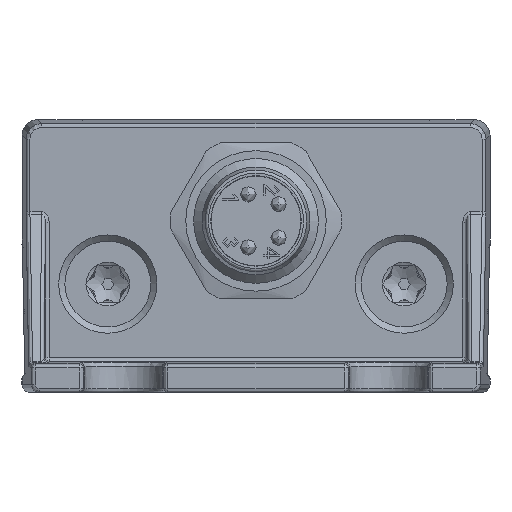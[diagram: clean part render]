
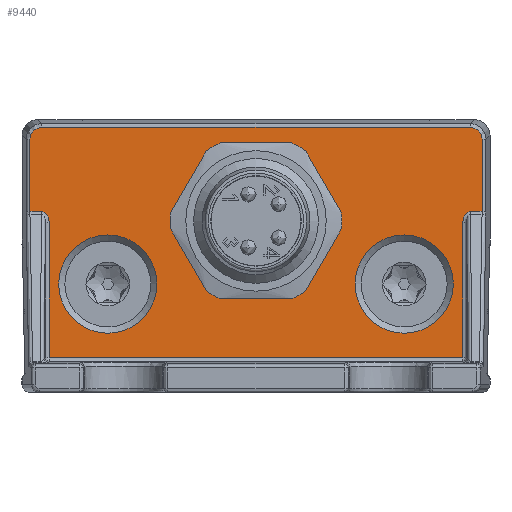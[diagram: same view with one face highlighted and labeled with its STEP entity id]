
A CAD part, front view. The second image highlights one B-rep face of the part: STEP entity #9440.
In plain terms, the highlighted planar face has unit normal (0, -1, 0).
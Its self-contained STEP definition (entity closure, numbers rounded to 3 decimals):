
#551=FACE_BOUND('',#1306,.T.);
#552=FACE_BOUND('',#1307,.T.);
#553=FACE_BOUND('',#1308,.T.);
#574=ELLIPSE('',#10066,0.707,0.5);
#575=ELLIPSE('',#10067,0.707,0.5);
#576=ELLIPSE('',#10068,0.75,0.75);
#577=ELLIPSE('',#10069,0.75,0.75);
#752=FACE_OUTER_BOUND('',#1305,.T.);
#1305=EDGE_LOOP('',(#6007,#6008,#6009,#6010,#6011,#6012,#6013,#6014,#6015,
#6016,#6017,#6018));
#1306=EDGE_LOOP('',(#6019));
#1307=EDGE_LOOP('',(#6020));
#1308=EDGE_LOOP('',(#6021));
#1893=CIRCLE('',#10051,3.15);
#1896=CIRCLE('',#10055,3.15);
#1900=CIRCLE('',#10070,4.5);
#2311=LINE('',#13912,#2991);
#2312=LINE('',#13914,#2992);
#2313=LINE('',#13916,#2993);
#2314=LINE('',#13920,#2994);
#2315=LINE('',#13922,#2995);
#2316=LINE('',#13926,#2996);
#2317=LINE('',#13930,#2997);
#2318=LINE('',#13931,#2998);
#2991=VECTOR('',#11216,1.);
#2992=VECTOR('',#11217,1.);
#2993=VECTOR('',#11218,1.);
#2994=VECTOR('',#11221,1.);
#2995=VECTOR('',#11222,1.);
#2996=VECTOR('',#11225,1.);
#2997=VECTOR('',#11228,1.);
#2998=VECTOR('',#11229,1.);
#3668=VERTEX_POINT('',#13823);
#3671=VERTEX_POINT('',#13831);
#3705=VERTEX_POINT('',#13908);
#3706=VERTEX_POINT('',#13909);
#3707=VERTEX_POINT('',#13911);
#3708=VERTEX_POINT('',#13913);
#3709=VERTEX_POINT('',#13915);
#3710=VERTEX_POINT('',#13917);
#3711=VERTEX_POINT('',#13919);
#3712=VERTEX_POINT('',#13921);
#3713=VERTEX_POINT('',#13923);
#3714=VERTEX_POINT('',#13925);
#3715=VERTEX_POINT('',#13927);
#3716=VERTEX_POINT('',#13929);
#3717=VERTEX_POINT('',#13932);
#4548=EDGE_CURVE('',#3668,#3668,#1893,.T.);
#4552=EDGE_CURVE('',#3671,#3671,#1896,.T.);
#4589=EDGE_CURVE('',#3705,#3706,#574,.T.);
#4590=EDGE_CURVE('',#3707,#3705,#2311,.T.);
#4591=EDGE_CURVE('',#3707,#3708,#2312,.T.);
#4592=EDGE_CURVE('',#3709,#3708,#2313,.T.);
#4593=EDGE_CURVE('',#3710,#3709,#575,.T.);
#4594=EDGE_CURVE('',#3710,#3711,#2314,.T.);
#4595=EDGE_CURVE('',#3711,#3712,#2315,.T.);
#4596=EDGE_CURVE('',#3712,#3713,#576,.T.);
#4597=EDGE_CURVE('',#3713,#3714,#2316,.T.);
#4598=EDGE_CURVE('',#3714,#3715,#577,.T.);
#4599=EDGE_CURVE('',#3715,#3716,#2317,.T.);
#4600=EDGE_CURVE('',#3716,#3706,#2318,.T.);
#4601=EDGE_CURVE('',#3717,#3717,#1900,.T.);
#6007=ORIENTED_EDGE('',*,*,#4589,.F.);
#6008=ORIENTED_EDGE('',*,*,#4590,.F.);
#6009=ORIENTED_EDGE('',*,*,#4591,.T.);
#6010=ORIENTED_EDGE('',*,*,#4592,.F.);
#6011=ORIENTED_EDGE('',*,*,#4593,.F.);
#6012=ORIENTED_EDGE('',*,*,#4594,.T.);
#6013=ORIENTED_EDGE('',*,*,#4595,.T.);
#6014=ORIENTED_EDGE('',*,*,#4596,.T.);
#6015=ORIENTED_EDGE('',*,*,#4597,.T.);
#6016=ORIENTED_EDGE('',*,*,#4598,.T.);
#6017=ORIENTED_EDGE('',*,*,#4599,.T.);
#6018=ORIENTED_EDGE('',*,*,#4600,.T.);
#6019=ORIENTED_EDGE('',*,*,#4601,.T.);
#6020=ORIENTED_EDGE('',*,*,#4548,.T.);
#6021=ORIENTED_EDGE('',*,*,#4552,.T.);
#8676=PLANE('',#10065);
#9440=ADVANCED_FACE('',(#752,#551,#552,#553),#8676,.T.);
#10051=AXIS2_PLACEMENT_3D('',#13825,#11152,#11153);
#10055=AXIS2_PLACEMENT_3D('',#13833,#11161,#11162);
#10065=AXIS2_PLACEMENT_3D('',#13907,#11212,#11213);
#10066=AXIS2_PLACEMENT_3D('',#13910,#11214,#11215);
#10067=AXIS2_PLACEMENT_3D('',#13918,#11219,#11220);
#10068=AXIS2_PLACEMENT_3D('',#13924,#11223,#11224);
#10069=AXIS2_PLACEMENT_3D('',#13928,#11226,#11227);
#10070=AXIS2_PLACEMENT_3D('',#13933,#11230,#11231);
#11152=DIRECTION('center_axis',(0.,1.,0.));
#11153=DIRECTION('ref_axis',(0.,0.,
-1.));
#11161=DIRECTION('center_axis',(0.,1.,0.));
#11162=DIRECTION('ref_axis',(0.,0.,
-1.));
#11212=DIRECTION('center_axis',(0.,-1.,0.));
#11213=DIRECTION('ref_axis',(0.,0.,
1.));
#11214=DIRECTION('center_axis',(0.,-1.,0.));
#11215=DIRECTION('ref_axis',(0.009,0.,
1.));
#11216=DIRECTION('',(0.,0.,1.));
#11217=DIRECTION('',(1.,0.,0.));
#11218=DIRECTION('',(0.,0.,-1.));
#11219=DIRECTION('center_axis',(0.,-1.,0.));
#11220=DIRECTION('ref_axis',(-0.009,0.,
1.));
#11221=DIRECTION('',(1.,0.,0.));
#11222=DIRECTION('',(0.,0.,1.));
#11223=DIRECTION('center_axis',(0.,-1.,0.));
#11224=DIRECTION('ref_axis',(0.707,0.,0.707));
#11225=DIRECTION('',(-1.,0.,0.));
#11226=DIRECTION('center_axis',(0.,-1.,0.));
#11227=DIRECTION('ref_axis',(-0.707,0.,0.707));
#11228=DIRECTION('',(0.,0.,-1.));
#11229=DIRECTION('',(1.,0.,0.));
#11230=DIRECTION('center_axis',(0.,1.,0.));
#11231=DIRECTION('ref_axis',(-1.,0.,0.));
#13823=CARTESIAN_POINT('',(-47.627,-212.291,-16.542));
#13825=CARTESIAN_POINT('Origin',(-47.627,-212.291,-13.392));
#13831=CARTESIAN_POINT('',(-28.627,-212.291,-16.542));
#13833=CARTESIAN_POINT('Origin',(-28.627,-212.291,-13.392));
#13907=CARTESIAN_POINT('Origin',(-38.127,-212.291,-11.592));
#13908=CARTESIAN_POINT('',(-51.379,-212.291,-9.442));
#13909=CARTESIAN_POINT('',(-51.876,-212.291,-8.739));
#13910=CARTESIAN_POINT('Origin',(-51.879,-212.291,-9.446));
#13911=CARTESIAN_POINT('',(-51.379,-212.291,-18.095));
#13912=CARTESIAN_POINT('',(-51.379,-212.291,-11.592));
#13913=CARTESIAN_POINT('',(-24.875,-212.291,-18.095));
#13914=CARTESIAN_POINT('',(-24.627,-212.291,-18.095));
#13915=CARTESIAN_POINT('',(-24.875,-212.291,-9.442));
#13916=CARTESIAN_POINT('',(-24.875,-212.291,-11.592));
#13917=CARTESIAN_POINT('',(-24.378,-212.291,-8.739));
#13918=CARTESIAN_POINT('Origin',(-24.375,-212.291,-9.446));
#13919=CARTESIAN_POINT('',(-23.634,-212.291,-8.739));
#13920=CARTESIAN_POINT('',(-23.389,-212.291,-8.739));
#13921=CARTESIAN_POINT('',(-23.634,-212.291,-4.1));
#13922=CARTESIAN_POINT('',(-23.634,-212.291,-11.592));
#13923=CARTESIAN_POINT('',(-24.384,-212.291,-3.35));
#13924=CARTESIAN_POINT('Origin',(-24.385,-212.291,-4.1));
#13925=CARTESIAN_POINT('',(-51.87,-212.291,-3.35));
#13926=CARTESIAN_POINT('',(-38.127,-212.291,-3.35));
#13927=CARTESIAN_POINT('',(-52.619,-212.291,-4.1));
#13928=CARTESIAN_POINT('Origin',(-51.869,-212.291,-4.1));
#13929=CARTESIAN_POINT('',(-52.619,-212.291,-8.739));
#13930=CARTESIAN_POINT('',(-52.619,-212.291,-11.592));
#13931=CARTESIAN_POINT('',(-51.627,-212.291,-8.739));
#13932=CARTESIAN_POINT('',(-33.627,-212.291,-9.342));
#13933=CARTESIAN_POINT('Origin',(-38.127,-212.291,-9.342));
